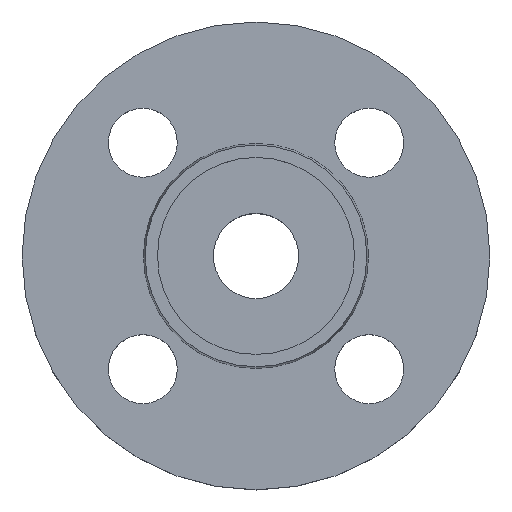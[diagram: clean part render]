
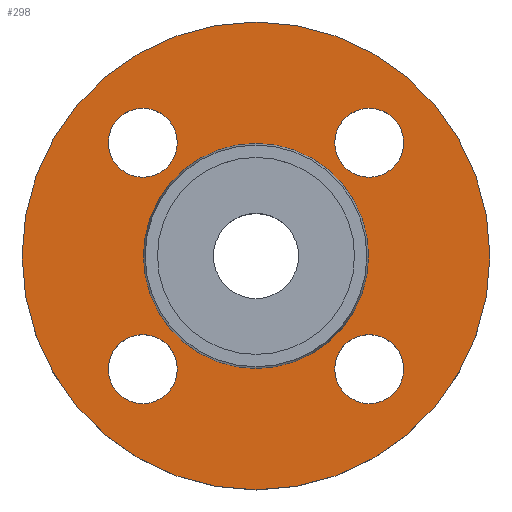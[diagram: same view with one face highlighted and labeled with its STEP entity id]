
A CAD part, top view. The second image highlights one B-rep face of the part: STEP entity #298.
In plain terms, the highlighted planar face has unit normal (0, 0, 1).
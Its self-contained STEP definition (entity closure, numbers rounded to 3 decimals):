
#25 = CIRCLE ( 'NONE', #26, 47.5 ) ;
#26 = AXIS2_PLACEMENT_3D ( 'NONE', #558, #559, #560 ) ;
#33 = CIRCLE ( 'NONE', #36, 22.853 ) ;
#36 = AXIS2_PLACEMENT_3D ( 'NONE', #561, #562, #563 ) ;
#41 = AXIS2_PLACEMENT_3D ( 'NONE', #597, #598, #599 ) ;
#45 = CIRCLE ( 'NONE', #457, 7. ) ;
#60 = CARTESIAN_POINT ( 'NONE',  ( 22.853, 0., -2. ) ) ;
#62 = CARTESIAN_POINT ( 'NONE',  ( 47.5, 0., -2. ) ) ;
#63 = CARTESIAN_POINT ( 'NONE',  ( 29.981, -22.981, -2. ) ) ;
#68 = CARTESIAN_POINT ( 'NONE',  ( 15.981, -22.981, -2. ) ) ;
#69 = EDGE_CURVE ( 'NONE', #866, #724, #344, .T. ) ;
#78 = CIRCLE ( 'NONE', #205, 22.853 ) ;
#87 = CARTESIAN_POINT ( 'NONE',  ( 29.981, 22.981, -2. ) ) ;
#92 = CARTESIAN_POINT ( 'NONE',  ( -15.981, -22.981, -2. ) ) ;
#108 = CIRCLE ( 'NONE', #112, 7. ) ;
#112 = AXIS2_PLACEMENT_3D ( 'NONE', #409, #412, #353 ) ;
#117 = CIRCLE ( 'NONE', #126, 7. ) ;
#125 = CARTESIAN_POINT ( 'NONE',  ( -29.981, 22.981, -2. ) ) ;
#126 = AXIS2_PLACEMENT_3D ( 'NONE', #318, #316, #315 ) ;
#127 = CIRCLE ( 'NONE', #129, 7. ) ;
#129 = AXIS2_PLACEMENT_3D ( 'NONE', #313, #312, #311 ) ;
#138 = DIRECTION ( 'NONE',  ( 1., 0., 0. ) ) ;
#142 = DIRECTION ( 'NONE',  ( 0., 0., -1. ) ) ;
#143 = CARTESIAN_POINT ( 'NONE',  ( 22.981, -22.981, -2. ) ) ;
#168 = DIRECTION ( 'NONE',  ( 1., 0., 0. ) ) ;
#169 = DIRECTION ( 'NONE',  ( 0., 0., -1. ) ) ;
#171 = CARTESIAN_POINT ( 'NONE',  ( -22.981, 22.981, -2. ) ) ;
#177 = EDGE_CURVE ( 'NONE', #856, #865, #45, .T. ) ;
#190 = DIRECTION ( 'NONE',  ( 1., 0., 0. ) ) ;
#192 = DIRECTION ( 'NONE',  ( 0., 0., -1. ) ) ;
#193 = CARTESIAN_POINT ( 'NONE',  ( -22.981, -22.981, -2. ) ) ;
#195 = CARTESIAN_POINT ( 'NONE',  ( -47.5, 0., -2. ) ) ;
#205 = AXIS2_PLACEMENT_3D ( 'NONE', #388, #398, #369 ) ;
#206 = CARTESIAN_POINT ( 'NONE',  ( -15.981, 22.981, -2. ) ) ;
#248 = EDGE_CURVE ( 'NONE', #724, #866, #25, .T. ) ;
#254 = EDGE_CURVE ( 'NONE', #871, #660, #33, .T. ) ;
#256 = CARTESIAN_POINT ( 'NONE',  ( -22.853, 0., -2. ) ) ;
#257 = CARTESIAN_POINT ( 'NONE',  ( 15.981, 22.981, -2. ) ) ;
#268 = CARTESIAN_POINT ( 'NONE',  ( -29.981, -22.981, -2. ) ) ;
#298 = ADVANCED_FACE ( 'NONE', ( #587, #588, #589, #590, #591, #592 ), #593, .T. ) ;
#308 = EDGE_CURVE ( 'NONE', #720, #773, #433, .T. ) ;
#311 = DIRECTION ( 'NONE',  ( 1., 0., 0. ) ) ;
#312 = DIRECTION ( 'NONE',  ( 0., 0., -1. ) ) ;
#313 = CARTESIAN_POINT ( 'NONE',  ( -22.981, -22.981, -2. ) ) ;
#315 = DIRECTION ( 'NONE',  ( 1., 0., 0. ) ) ;
#316 = DIRECTION ( 'NONE',  ( 0., 0., -1. ) ) ;
#318 = CARTESIAN_POINT ( 'NONE',  ( 22.981, 22.981, -2. ) ) ;
#328 = AXIS2_PLACEMENT_3D ( 'NONE', #171, #169, #168 ) ;
#329 = CIRCLE ( 'NONE', #328, 7. ) ;
#330 = AXIS2_PLACEMENT_3D ( 'NONE', #883, #884, #885 ) ;
#344 = CIRCLE ( 'NONE', #330, 47.5 ) ;
#353 = DIRECTION ( 'NONE',  ( 1., 0., 0. ) ) ;
#367 = CIRCLE ( 'NONE', #749, 7. ) ;
#369 = DIRECTION ( 'NONE',  ( -1., 0., 0. ) ) ;
#388 = CARTESIAN_POINT ( 'NONE',  ( 0., 0., -2. ) ) ;
#398 = DIRECTION ( 'NONE',  ( 0., 0., -1. ) ) ;
#409 = CARTESIAN_POINT ( 'NONE',  ( 22.981, 22.981, -2. ) ) ;
#412 = DIRECTION ( 'NONE',  ( 0., 0., -1. ) ) ;
#433 = CIRCLE ( 'NONE', #41, 7. ) ;
#435 = AXIS2_PLACEMENT_3D ( 'NONE', #594, #595, #596 ) ;
#457 = AXIS2_PLACEMENT_3D ( 'NONE', #475, #476, #477 ) ;
#475 = CARTESIAN_POINT ( 'NONE',  ( 22.981, -22.981, -2. ) ) ;
#476 = DIRECTION ( 'NONE',  ( 0., 0., -1. ) ) ;
#477 = DIRECTION ( 'NONE',  ( 1., 0., 0. ) ) ;
#510 = EDGE_CURVE ( 'NONE', #660, #871, #78, .T. ) ;
#523 = AXIS2_PLACEMENT_3D ( 'NONE', #193, #192, #190 ) ;
#524 = CIRCLE ( 'NONE', #523, 7. ) ;
#558 = CARTESIAN_POINT ( 'NONE',  ( 0., 0., -2. ) ) ;
#559 = DIRECTION ( 'NONE',  ( 0., 0., -1. ) ) ;
#560 = DIRECTION ( 'NONE',  ( -1., 0., 0. ) ) ;
#561 = CARTESIAN_POINT ( 'NONE',  ( 0., 0., -2. ) ) ;
#562 = DIRECTION ( 'NONE',  ( 0., 0., -1. ) ) ;
#563 = DIRECTION ( 'NONE',  ( -1., 0., 0. ) ) ;
#569 = EDGE_CURVE ( 'NONE', #658, #863, #108, .T. ) ;
#577 = EDGE_CURVE ( 'NONE', #863, #658, #117, .T. ) ;
#586 = EDGE_CURVE ( 'NONE', #846, #651, #127, .T. ) ;
#587 = FACE_BOUND ( 'NONE', #648, .T. ) ;
#588 = FACE_BOUND ( 'NONE', #770, .T. ) ;
#589 = FACE_BOUND ( 'NONE', #634, .T. ) ;
#590 = FACE_BOUND ( 'NONE', #669, .T. ) ;
#591 = FACE_BOUND ( 'NONE', #852, .T. ) ;
#592 = FACE_OUTER_BOUND ( 'NONE', #794, .T. ) ;
#593 = PLANE ( 'NONE',  #435 ) ;
#594 = CARTESIAN_POINT ( 'NONE',  ( 22.853, 0., -2. ) ) ;
#595 = DIRECTION ( 'NONE',  ( 0., 0., 1. ) ) ;
#596 = DIRECTION ( 'NONE',  ( 1., 0., 0. ) ) ;
#597 = CARTESIAN_POINT ( 'NONE',  ( -22.981, 22.981, -2. ) ) ;
#598 = DIRECTION ( 'NONE',  ( 0., 0., -1. ) ) ;
#599 = DIRECTION ( 'NONE',  ( 1., 0., 0. ) ) ;
#634 = EDGE_LOOP ( 'NONE', ( #755, #756 ) ) ;
#648 = EDGE_LOOP ( 'NONE', ( #748, #750 ) ) ;
#651 = VERTEX_POINT ( 'NONE', #268 ) ;
#658 = VERTEX_POINT ( 'NONE', #257 ) ;
#660 = VERTEX_POINT ( 'NONE', #256 ) ;
#669 = EDGE_LOOP ( 'NONE', ( #757, #758 ) ) ;
#720 = VERTEX_POINT ( 'NONE', #206 ) ;
#724 = VERTEX_POINT ( 'NONE', #195 ) ;
#728 = EDGE_CURVE ( 'NONE', #651, #846, #524, .T. ) ;
#737 = EDGE_CURVE ( 'NONE', #773, #720, #329, .T. ) ;
#748 = ORIENTED_EDGE ( 'NONE', *, *, #764, .T. ) ;
#749 = AXIS2_PLACEMENT_3D ( 'NONE', #143, #142, #138 ) ;
#750 = ORIENTED_EDGE ( 'NONE', *, *, #177, .T. ) ;
#751 = ORIENTED_EDGE ( 'NONE', *, *, #586, .T. ) ;
#753 = ORIENTED_EDGE ( 'NONE', *, *, #728, .T. ) ;
#755 = ORIENTED_EDGE ( 'NONE', *, *, #308, .T. ) ;
#756 = ORIENTED_EDGE ( 'NONE', *, *, #737, .T. ) ;
#757 = ORIENTED_EDGE ( 'NONE', *, *, #577, .T. ) ;
#758 = ORIENTED_EDGE ( 'NONE', *, *, #569, .T. ) ;
#759 = ORIENTED_EDGE ( 'NONE', *, *, #510, .T. ) ;
#760 = ORIENTED_EDGE ( 'NONE', *, *, #254, .T. ) ;
#761 = ORIENTED_EDGE ( 'NONE', *, *, #69, .F. ) ;
#762 = ORIENTED_EDGE ( 'NONE', *, *, #248, .F. ) ;
#764 = EDGE_CURVE ( 'NONE', #865, #856, #367, .T. ) ;
#770 = EDGE_LOOP ( 'NONE', ( #751, #753 ) ) ;
#773 = VERTEX_POINT ( 'NONE', #125 ) ;
#794 = EDGE_LOOP ( 'NONE', ( #761, #762 ) ) ;
#846 = VERTEX_POINT ( 'NONE', #92 ) ;
#852 = EDGE_LOOP ( 'NONE', ( #759, #760 ) ) ;
#856 = VERTEX_POINT ( 'NONE', #68 ) ;
#863 = VERTEX_POINT ( 'NONE', #87 ) ;
#865 = VERTEX_POINT ( 'NONE', #63 ) ;
#866 = VERTEX_POINT ( 'NONE', #62 ) ;
#871 = VERTEX_POINT ( 'NONE', #60 ) ;
#883 = CARTESIAN_POINT ( 'NONE',  ( 0., 0., -2. ) ) ;
#884 = DIRECTION ( 'NONE',  ( 0., 0., -1. ) ) ;
#885 = DIRECTION ( 'NONE',  ( -1., 0., 0. ) ) ;
